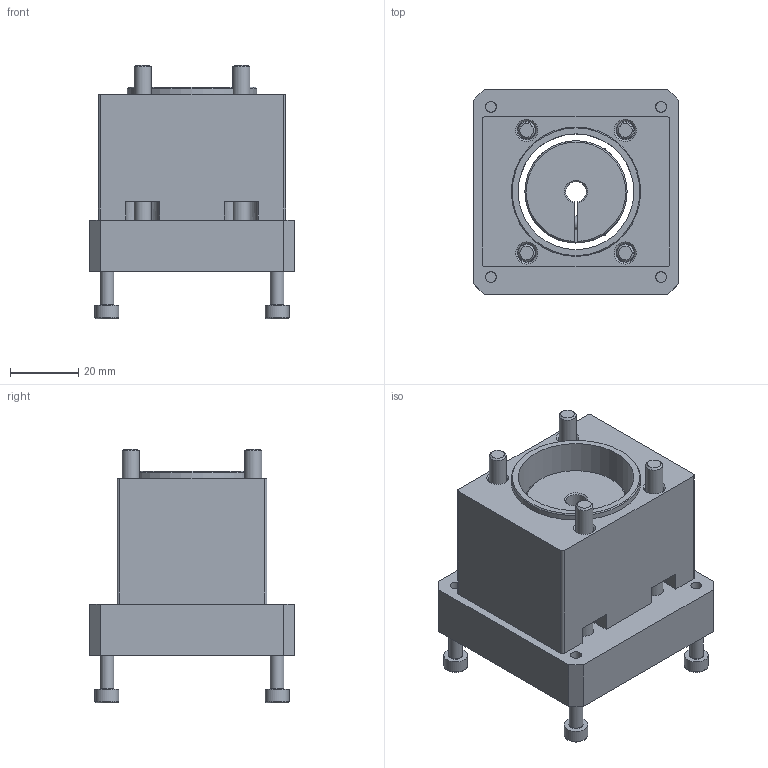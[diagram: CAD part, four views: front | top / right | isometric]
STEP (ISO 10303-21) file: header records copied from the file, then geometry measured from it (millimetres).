
FILE_DESCRIPTION(/* description */ ('EAMK-A O-Coupling housing'),/* implementation_level */ '2;1');
FILE_NAME(/* name */ 'C:\STORE\ホームページ用データ\\X2\30E230FC30BF53D64ED830AD30C330C8\X0\_2016_2016.10.06_\X2\30AB30BF30ED30B065398A025206\X0\\3D_STEP\J09812.stp',/* time_stamp */ '2016-10-17T17:23:32+09:00',/* author */ ('jp0tot'),/* organization */ ('FESTO'),/* preprocessor_version */ 'ST-DEVELOPER v15.6',/* originating_system */ 'Autodesk Inventor 2015',/* authorisation */ '');
FILE_SCHEMA (('AUTOMOTIVE_DESIGN { 1 0 10303 214 3 1 1 }'));
Length unit declared in the file: millimetre
Products named in the file (7): 3637942 EAMK-A-S38-38A_B-G2---(1O); 3637942 EAMK-A-S38-38A_B-G2; 1233256_EAMC_30_32_6_14; J08121A; コピー版 JIS B 1176 - M5 x 55; コピー版 JIS B 1176 - M4 x 18; J09812
Bounding box: 60 x 60 x 74.5 mm (x, y, z)
Volume: 110611.7 mm3; surface area: 44417.9 mm2
Topology: 11 solids, 11 shells, 365 faces, 922 edges, 599 vertices
Faces by surface type: plane 190, cylinder 111, cone 46, torus 18
Full cylindrical faces by diameter (mm): 2 x12, 2.459 x4, 3.242 x6, 4 x6, 5 x4, 5.5 x8, 7 x4, 8.5 x4, 14.2 x1, 34 x1, 36 x1, 38 x2
Entity records: 8547 total; most frequent: CARTESIAN_POINT 1660, DIRECTION 1464, ORIENTED_EDGE 1290, EDGE_CURVE 645, AXIS2_PLACEMENT_3D 569, VERTEX_POINT 461, EDGE_LOOP 398, LINE 326
